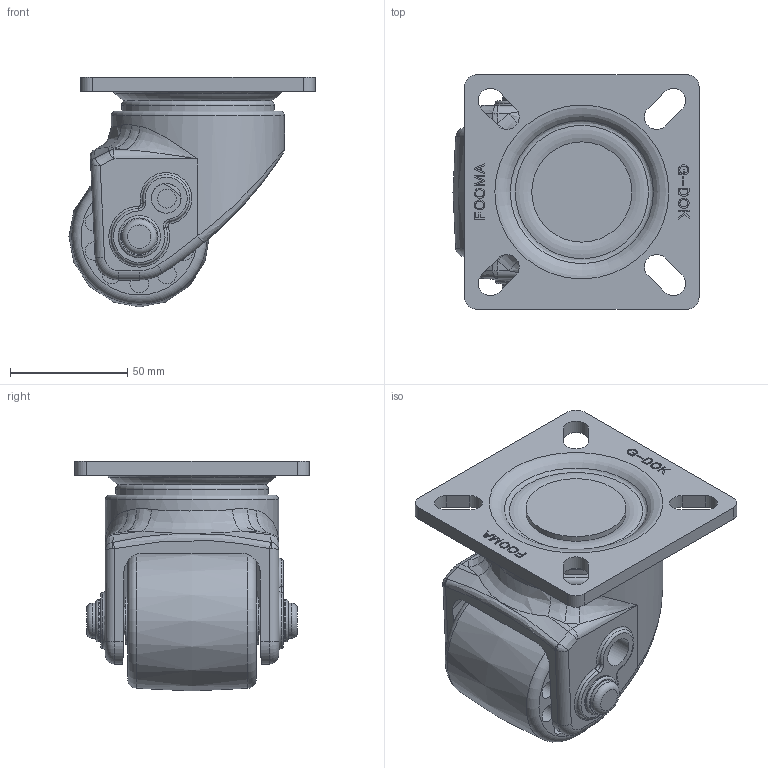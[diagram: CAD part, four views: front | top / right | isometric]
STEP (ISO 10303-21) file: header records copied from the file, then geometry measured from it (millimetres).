
FILE_DESCRIPTION((' '),'2;1');
FILE_NAME('E:\Temp\3d\GLH-60\GLH-60-ASF-PHS.stp','2013-07-08T13:26:56',(' '),(' '),' ','ACIS',' ');
FILE_SCHEMA(('CONFIG_CONTROL_DESIGN'));
Length unit declared in the file: millimetre
Products named in the file (1): E:\Temp\3d\GLH-60\GLH-60-ASF-PHS.stp
Bounding box: 105 x 100 x 98.13 mm (x, y, z)
Volume: 352749.8 mm3; surface area: 67383.6 mm2
Topology: 1 solids, 2 shells, 683 faces, 1804 edges, 1171 vertices
Faces by surface type: plane 453, bspline 99, cylinder 63, torus 24, cone 24, sphere 20
Full cylindrical faces by diameter (mm): 7.8 x1, 8 x20, 11.95 x2, 12.2 x2, 12.676 x1, 13 x2, 15 x2, 18 x2, 20 x2, 42.8 x1, 65.14 x1, 74 x1
Entity records: 29978 total; most frequent: CARTESIAN_POINT 13472, ORIENTED_EDGE 3448, DIRECTION 3190, EDGE_CURVE 1724, VECTOR 1178, LINE 1178, VERTEX_POINT 1155, AXIS2_PLACEMENT_3D 1006
